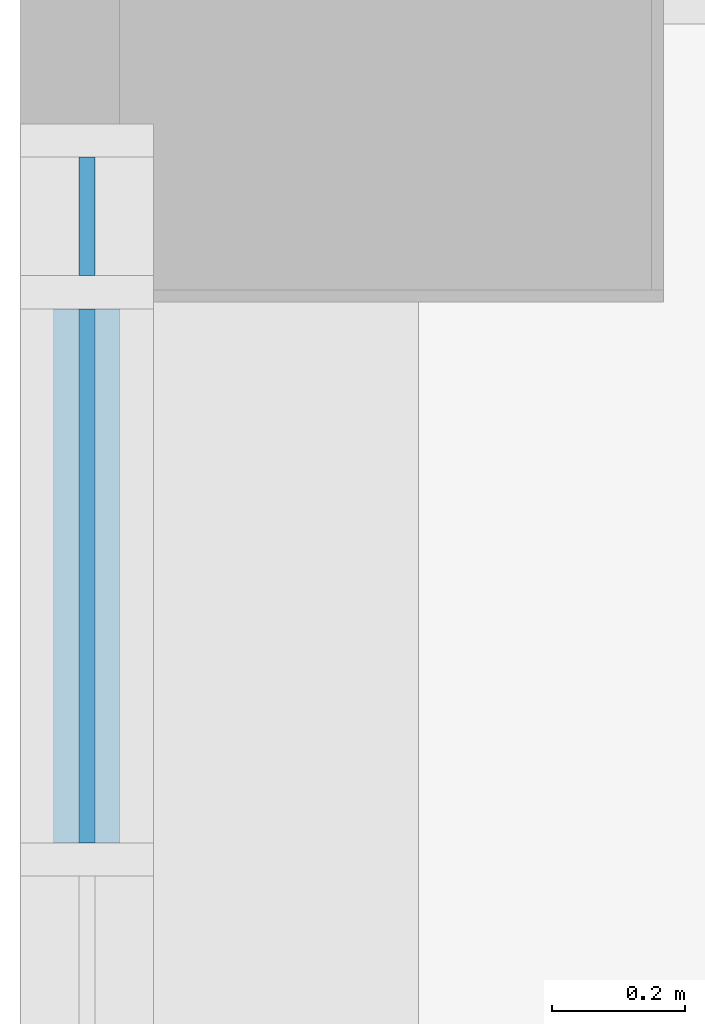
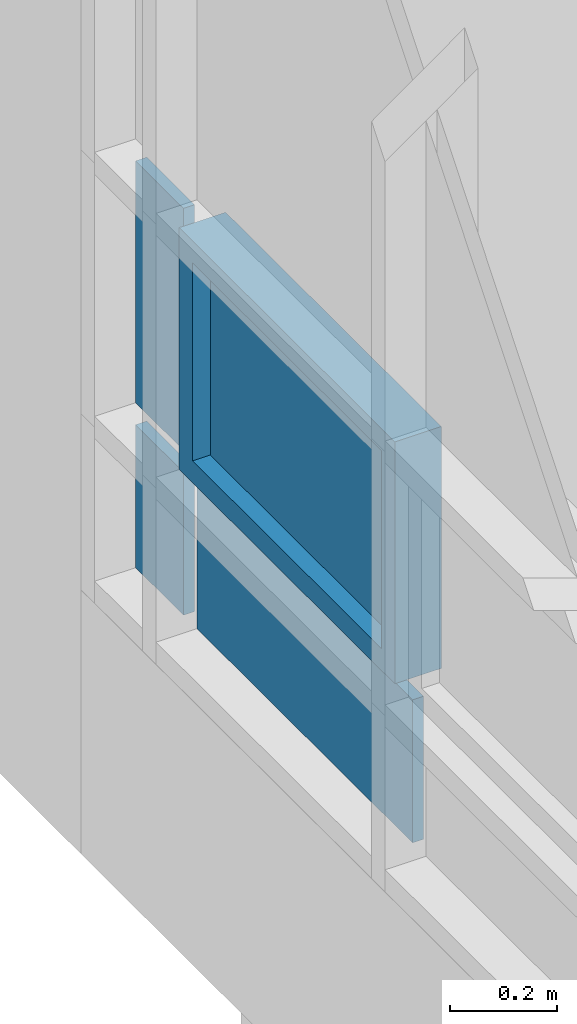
# One storey, part 41 of 81: 4 plates, 1 element without a shape of its own.
"""IFC2X3 building model written with IfcOpenShell, lengths in millimetres."""

from ifc_helpers import new_model, entity, si_unit, converted_unit, derived_unit, direction, frame, origin, origin_2d_with_axis, place, context, subcontext, project, spatial, polyline, rectangle, outline, extrude, source, transform, mapped, material, material_list, type_object, type_shapes, element, aggregate, save


model = new_model("IFC2X3")

# Units and contexts
model_context = context("Model", 3, precision=0.01, world=origin(), true_north=direction((6.123031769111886e-17, 1.0)))
body_context = subcontext(model_context, "Body", "Model", "MODEL_VIEW")
ifc_project = project(units=[si_unit("LENGTHUNIT", "METRE", prefix="MILLI"), si_unit("AREAUNIT", "SQUARE_METRE"), si_unit("VOLUMEUNIT", "CUBIC_METRE"), converted_unit("PLANEANGLEUNIT", "DEGREE", entity("IfcRatioMeasure", 0.017453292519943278), si_unit("PLANEANGLEUNIT", "RADIAN"), dimensions=[0, 0, 0, 0, 0, 0, 0]), si_unit("MASSUNIT", "GRAM", prefix="KILO"), derived_unit("MASSDENSITYUNIT", [(si_unit("MASSUNIT", "GRAM", prefix="KILO"), 1), (si_unit("LENGTHUNIT", "METRE"), -3)]), derived_unit("MOMENTOFINERTIAUNIT", [(si_unit("LENGTHUNIT", "METRE"), 4)]), si_unit("TIMEUNIT", "SECOND"), si_unit("FREQUENCYUNIT", "HERTZ"), si_unit("THERMODYNAMICTEMPERATUREUNIT", "DEGREE_CELSIUS"), derived_unit("THERMALTRANSMITTANCEUNIT", [(si_unit("MASSUNIT", "GRAM", prefix="KILO"), 1), (si_unit("THERMODYNAMICTEMPERATUREUNIT", "KELVIN"), -1), (si_unit("TIMEUNIT", "SECOND"), -3)]), derived_unit("VOLUMETRICFLOWRATEUNIT", [(si_unit("LENGTHUNIT", "METRE"), 3), (si_unit("TIMEUNIT", "SECOND"), -1)]), derived_unit("MASSFLOWRATEUNIT", [(si_unit("MASSUNIT", "GRAM", prefix="KILO"), 1), (si_unit("TIMEUNIT", "SECOND"), -1)]), derived_unit("ROTATIONALFREQUENCYUNIT", [(si_unit("TIMEUNIT", "SECOND"), -1)]), si_unit("ELECTRICCURRENTUNIT", "AMPERE"), si_unit("ELECTRICVOLTAGEUNIT", "VOLT"), si_unit("POWERUNIT", "WATT"), si_unit("FORCEUNIT", "NEWTON", prefix="KILO"), si_unit("ILLUMINANCEUNIT", "LUX"), si_unit("LUMINOUSFLUXUNIT", "LUMEN"), si_unit("LUMINOUSINTENSITYUNIT", "CANDELA"), derived_unit("USERDEFINED", [(si_unit("MASSUNIT", "GRAM", prefix="KILO"), -1), (si_unit("LENGTHUNIT", "METRE"), -2), (si_unit("TIMEUNIT", "SECOND"), 3), (si_unit("LUMINOUSFLUXUNIT", "LUMEN"), 1)]), derived_unit("SOUNDPOWERUNIT", [(si_unit("MASSUNIT", "GRAM", prefix="KILO"), 1), (si_unit("LENGTHUNIT", "METRE"), 2), (si_unit("TIMEUNIT", "SECOND"), -3)]), derived_unit("SOUNDPRESSUREUNIT", [(si_unit("MASSUNIT", "GRAM", prefix="KILO"), 1), (si_unit("LENGTHUNIT", "METRE"), -1), (si_unit("TIMEUNIT", "SECOND"), -2)]), derived_unit("LINEARVELOCITYUNIT", [(si_unit("LENGTHUNIT", "METRE"), 1), (si_unit("TIMEUNIT", "SECOND"), -1)]), si_unit("PRESSUREUNIT", "PASCAL"), derived_unit("USERDEFINED", [(si_unit("LENGTHUNIT", "METRE"), -2), (si_unit("MASSUNIT", "GRAM", prefix="KILO"), 1), (si_unit("TIMEUNIT", "SECOND"), -2)]), derived_unit("LINEARFORCEUNIT", [(si_unit("MASSUNIT", "GRAM", prefix="KILO"), 1), (si_unit("LENGTHUNIT", "METRE"), 1), (si_unit("TIMEUNIT", "SECOND"), -2), (si_unit("LENGTHUNIT", "METRE"), -1)]), derived_unit("PLANARFORCEUNIT", [(si_unit("MASSUNIT", "GRAM", prefix="KILO"), 1), (si_unit("LENGTHUNIT", "METRE"), 1), (si_unit("TIMEUNIT", "SECOND"), -2), (si_unit("LENGTHUNIT", "METRE"), -2)])], contexts=[model_context])

# Site, building, storey
site_placement = place(None, frame((-14167.972527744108, -657.2125860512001, 0.0)))
site = spatial("IfcSite", under=ifc_project, at=site_placement, Name="Default", CompositionType="ELEMENT")
building_placement = place(site_placement, origin())
building = spatial("IfcBuilding", under=site, at=building_placement, Name="Sample Building", CompositionType="ELEMENT")
storey_placement = place(building_placement, frame((0.0, 0.0, 13400.0)))
storey = spatial("IfcBuildingStorey", under=building, at=storey_placement, Name="지상 4층", CompositionType="ELEMENT", Elevation=13400.00000000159)

# Curtain wall, plates
curtain_wall_type = type_object("IfcCurtainWallType", Name="커튼월:CW112-스테인리스 스틸 커튼월", PredefinedType="NOTDEFINED")
curtain_wall_placement = place(storey_placement, frame((0.0, 0.0, -13400.0)))
curtain_wall = element("IfcCurtainWall", 1, at=curtain_wall_placement, inside=storey, type_object=curtain_wall_type, Name="커튼월:CW112-스테인리스 스틸 커튼월", ObjectType="커튼월:CW112-스테인리스 스틸 커튼월")
ifc_material_1 = material(Name="KBIMS-로이유리(코팅)")
plate_type_1 = type_object("IfcPlateType", Name="CW300-THK24.Low-e coating glass:CW300-THK24.Low-e coating glass", PredefinedType="CURTAIN_PANEL", material=ifc_material_1)
shared_shape_1 = source(origin(), body_context, "Body", "SweptSolid", [
    extrude(rectangle(XDim=178.39458804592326, YDim=24.000000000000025, at=origin_2d_with_axis()), frame((0.0, 0.0, 0.0), z_axis=(0.0, 0.0, 1.0), x_axis=(-1.0, 0.0, 0.0)), (0.0, 0.0, 1.0), 324.9999999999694),
])
type_shapes(plate_type_1, [shared_shape_1])
plate_1_placement = place(curtain_wall_placement, frame((14018.570555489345, 35068.01500111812, 14050.0), z_axis=(0.0, 0.0, 1.0), x_axis=(0.0, -1.0, 0.0)))
plate_1 = element("IfcPlate", 2, at=plate_1_placement, type_object=plate_type_1, material=ifc_material_1, Name="CW300-THK24.Low-e coating glass:CW300-THK24.Low-e coating glass", ObjectType="CW300-THK24.Low-e coating glass:CW300-THK24.Low-e coating glass", context=body_context, shape_type="MappedRepresentation", body=[
    mapped(shared_shape_1, transform((0.0, 0.0, 0.0), scale=1.0)),
])
plate_type_2 = type_object("IfcPlateType", Name="CW300-THK24.Low-e coating glass:CW300-THK24.Low-e coating glass", PredefinedType="CURTAIN_PANEL", material=ifc_material_1)
shared_shape_2 = source(origin(), body_context, "Body", "SweptSolid", [
    extrude(rectangle(XDim=803.5000000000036, YDim=24.000000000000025, at=origin_2d_with_axis()), frame((0.0, 0.0, 0.0), z_axis=(0.0, 0.0, 1.0), x_axis=(-1.0, 0.0, 0.0)), (0.0, 0.0, 1.0), 324.9999999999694),
])
type_shapes(plate_type_2, [shared_shape_2])
plate_2_placement = place(curtain_wall_placement, frame((14018.570555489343, 34527.06770709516, 14050.0), z_axis=(0.0, 0.0, 1.0), x_axis=(0.0, -1.0, 0.0)))
plate_2 = element("IfcPlate", 3, at=plate_2_placement, type_object=plate_type_2, material=ifc_material_1, Name="CW300-THK24.Low-e coating glass:CW300-THK24.Low-e coating glass", ObjectType="CW300-THK24.Low-e coating glass:CW300-THK24.Low-e coating glass", context=body_context, shape_type="MappedRepresentation", body=[
    mapped(shared_shape_2, transform((0.0, 0.0, 0.0), scale=1.0)),
])
plate_type_3 = type_object("IfcPlateType", Name="CW300-THK24.Low-e coating glass:CW300-THK24.Low-e coating glass", PredefinedType="CURTAIN_PANEL", material=ifc_material_1)
shared_shape_3 = source(origin(), body_context, "Body", "SweptSolid", [
    extrude(rectangle(XDim=178.39458804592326, YDim=24.000000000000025, at=origin_2d_with_axis()), frame((0.0, 0.0, 0.0), z_axis=(0.0, 0.0, 1.0), x_axis=(-1.0, 0.0, 0.0)), (0.0, 0.0, 1.0), 549.9999999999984),
])
type_shapes(plate_type_3, [shared_shape_3])
plate_3_placement = place(curtain_wall_placement, frame((14018.570555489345, 35068.01500111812, 14425.0), z_axis=(0.0, 0.0, 1.0), x_axis=(0.0, -1.0, 0.0)))
plate_3 = element("IfcPlate", 4, at=plate_3_placement, type_object=plate_type_3, material=ifc_material_1, Name="CW300-THK24.Low-e coating glass:CW300-THK24.Low-e coating glass", ObjectType="CW300-THK24.Low-e coating glass:CW300-THK24.Low-e coating glass", context=body_context, shape_type="MappedRepresentation", body=[
    mapped(shared_shape_3, transform((0.0, 0.0, 0.0), scale=1.0)),
])
ifc_material_2 = material(Name="KBIMS-유리")
ifc_material_3 = material(Name="KBIMS-알루미늄")
ifc_material_list_1 = material_list([ifc_material_2, ifc_material_3])
ifc_material_list_2 = material_list([ifc_material_2, ifc_material_3])
plate_type_4 = type_object("IfcPlateType", Name="CW410-프로젝트 창:CW410-프로젝트 창 (하부개폐)", PredefinedType="CURTAIN_PANEL", material=ifc_material_list_2)
shared_shape_4 = source(origin(), body_context, "Body", "SweptSolid", [
    extrude(rectangle(XDim=703.5000000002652, YDim=23.999999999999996, at=origin_2d_with_axis()), frame((0.0, -0.04999999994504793, 50.0), z_axis=(0.0, 0.0, 1.0), x_axis=(-1.0, 0.0, 0.0)), (0.0, 0.0, 1.0), 450.00000000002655),
    extrude(outline(polyline([(-401.750000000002, -275.0), (401.750000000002, -275.0), (401.750000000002, 275.0), (-401.750000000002, 275.0), (-401.750000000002, -275.0)]), holes=[polyline([(-351.75000000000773, -225.0), (-351.7500000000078, 225.0), (351.7500000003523, 225.0), (351.75000000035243, -225.0), (-351.75000000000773, -225.0)])]), frame((0.0, -50.04999999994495, 275.0), z_axis=(0.0, 1.0, 0.0), x_axis=(1.0, 0.0, 0.0)), (0.0, 0.0, 1.0), 99.99999999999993),
])
type_shapes(plate_type_4, [shared_shape_4])
plate_4_placement = place(curtain_wall_placement, frame((14018.570555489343, 34527.06770709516, 14425.0), z_axis=(0.0, 0.0, 1.0), x_axis=(0.0, -1.0, 0.0)))
plate_4 = element("IfcPlate", 5, at=plate_4_placement, type_object=plate_type_4, material=ifc_material_list_1, Name="CW410-프로젝트 창:CW410-프로젝트 창 (하부개폐)", ObjectType="CW410-프로젝트 창:CW410-프로젝트 창 (하부개폐)", context=body_context, shape_type="MappedRepresentation", body=[
    mapped(shared_shape_4, transform((0.0, 0.0, 0.0), scale=1.0)),
])
aggregate(curtain_wall, [plate_1, plate_2, plate_3, plate_4])

save(model, "model.ifc")
